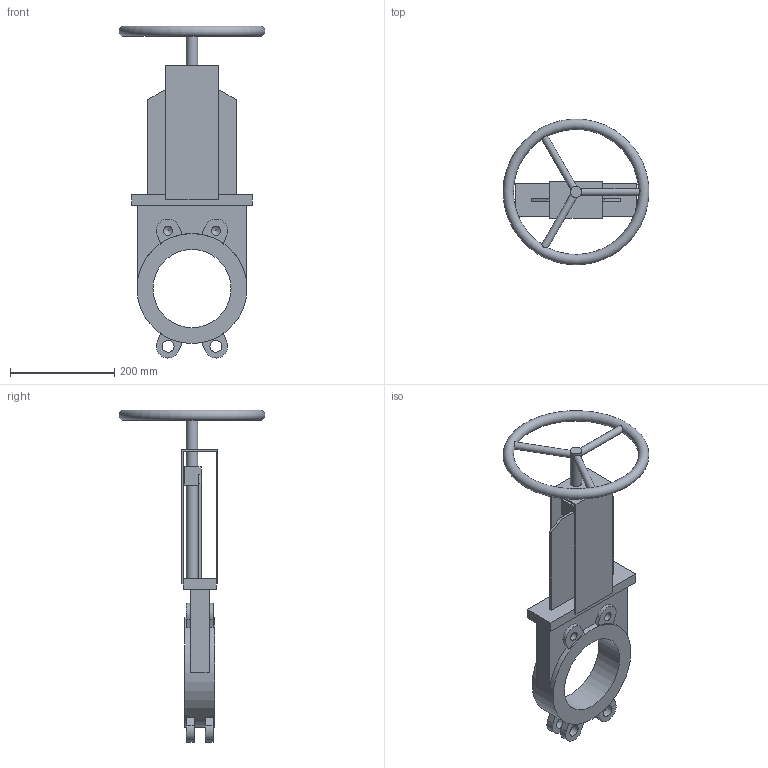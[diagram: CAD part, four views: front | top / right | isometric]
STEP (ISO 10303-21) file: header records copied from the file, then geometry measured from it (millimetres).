
FILE_DESCRIPTION(('STEP AP203'), '1');
FILE_NAME('Çàäâèæêà øèáåðíàÿ ìåæôëàíöåâàÿ K51GV DN150', '', ('UNSPECIFIED'), ('UNSPECIFIED'), 'ASCON STEP Converter 1.6', 'ASCON Math Kernel', '');
FILE_SCHEMA(('CONFIG_CONTROL_DESIGN'));
Length unit declared in the file: millimetre
Bounding box: 279.93 x 279.73 x 637.34 mm (x, y, z)
Volume: 2769907.3 mm3; surface area: 461003.6 mm2
Topology: 1 solids, 1 shells, 93 faces, 252 edges, 165 vertices
Faces by surface type: plane 64, cylinder 24, cone 4, torus 1
Full cylindrical faces by diameter (mm): 14 x3, 17.294 x4, 22 x3, 23 x4, 150 x1, 211 x1
Entity records: 4776 total; most frequent: CARTESIAN_POINT 1690, DIRECTION 466, ORIENTED_EDGE 448, EDGE_CURVE 224, VERTEX_POINT 160, AXIS2_PLACEMENT_3D 156, LINE 154, VECTOR 154
